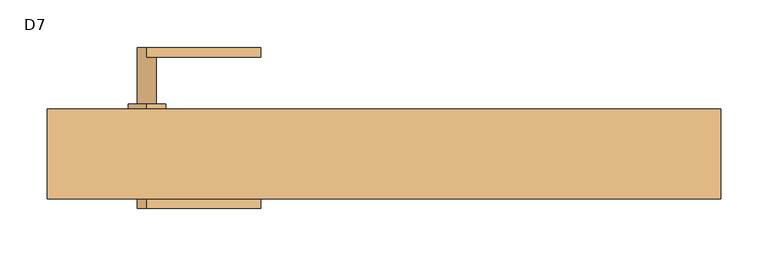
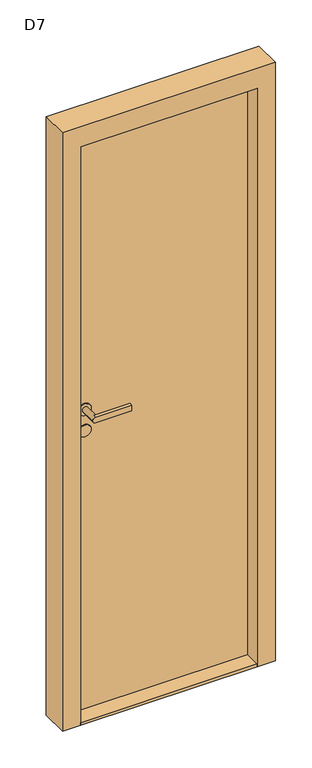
"""IFC4 building model written with IfcOpenShell, lengths in millimetres: door geometry, Enkeldörr : D7."""

from ifc_helpers import new_model, si_unit, point, frame, frame_2d, origin, origin_with_axes, place, context, project, spatial, polyline, circle_curve, trimmed, segment, composite_curve, outline, extrude, source, transform, mapped, element, save
from ifc_brep_helpers import plane_surface, cylinder_surface, advanced_brep


def d7_8e38d2bf(model_context):
    return source(origin(), model_context, "Body", "SolidModel", [
        extrude(outline(polyline([(295.0, 7.5), (-295.0, 7.5), (-295.0, 47.5), (295.0, 47.5), (295.0, 7.5)])), frame((0.0, 0.0, 10.0), z_axis=(0.0, 0.0, 1.0), x_axis=(1.0, 0.0, 0.0)), (0.0, 0.0, 1.0), 2030.0),
        advanced_brep(
        [(-250.0, -47.5, 1057.5), (-240.0, -47.5, 1067.5), (-250.0, -47.5, 1077.5), (-130.0, -47.5, 1077.5), (-130.0, -47.5, 1057.5), (-250.0, -57.5, 1077.5), (-260.0, -57.5, 1067.5), (-250.0, -57.5, 1057.5), (-130.0, -57.5, 1057.5), (-130.0, -57.5, 1077.5), (-240.0, 2.5, 1067.5), (-260.0, 2.5, 1067.5)],
        [
            (0, 1, circle_curve(frame((-250.0, -47.5, 1067.5), z_axis=(0.0, -1.0, 0.0), x_axis=(0.0, 0.0, 1.0)), 10.0)),
            (1, 2, circle_curve(frame((-250.0, -47.5, 1067.5), z_axis=(0.0, -1.0, 0.0), x_axis=(0.0, 0.0, 1.0)), 10.0)),
            (2, 3),
            (3, 4),
            (4, 0),
            (5, 6, circle_curve(frame((-250.0, -57.5, 1067.5), z_axis=(0.0, -1.0, 0.0), x_axis=(0.0, 0.0, 1.0)), 10.0)),
            (6, 7, circle_curve(frame((-250.0, -57.5, 1067.5), z_axis=(0.0, -1.0, 0.0), x_axis=(0.0, 0.0, 1.0)), 10.0)),
            (7, 8),
            (8, 9),
            (9, 5),
            (4, 8),
            (7, 0),
            (3, 9),
            (2, 5),
            (10, 11, circle_curve(frame((-250.0, 2.5, 1067.5), z_axis=(0.0, 1.0, 0.0), x_axis=(0.0, 0.0, 1.0)), 10.0)),
            (11, 10, circle_curve(frame((-250.0, 2.5, 1067.5), z_axis=(0.0, 1.0, 0.0), x_axis=(0.0, 0.0, 1.0)), 10.0)),
            (11, 6),
            (1, 10),
        ],
        [
            plane_surface(frame((-250.0, -47.5, 1057.5), z_axis=(0.0, 1.0, 0.0), x_axis=(1.0, 0.0, 0.0))),
            plane_surface(frame((-250.0, -57.5, 1057.5), z_axis=(0.0, -1.0, 0.0), x_axis=(-1.0, 0.0, 0.0))),
            plane_surface(frame((-250.0, -47.5, 1057.5), z_axis=(0.0, 0.0, -1.0), x_axis=(0.0, -1.0, 0.0))),
            plane_surface(frame((-130.0, -47.5, 1057.5), z_axis=(1.0, 0.0, 0.0), x_axis=(0.0, -1.0, 0.0))),
            plane_surface(frame((-130.0, -47.5, 1077.5), z_axis=(0.0, 0.0, 1.0), x_axis=(0.0, -1.0, 0.0))),
            plane_surface(frame((-250.0, 2.5, 1077.5), z_axis=(0.0, 1.0, 0.0), x_axis=(-1.0, 0.0, 0.0))),
            cylinder_surface(frame((-250.0, -57.5, 1067.5), z_axis=(0.0, 1.0, 0.0), x_axis=(0.0, 0.0, 1.0)), 10.0),
        ],
        [
            (0, [[1, 2, 3, 4, 5]]),
            (1, [[6, 7, 8, 9, 10]]),
            (2, [[11, -8, 12, -5]]),
            (3, [[13, -9, -11, -4]]),
            (4, [[14, -10, -13, -3]]),
            (5, [[15, 16]]),
            (6, [[17, -6, -14, -2, 18, -16]]),
            (6, [[-18, -1, -12, -7, -17, -15]]),
        ],
    ),
        advanced_brep(
        [(-250.0, 112.5, 1057.5), (-260.0, 112.5, 1067.5), (-250.0, 112.5, 1077.5), (-130.0, 112.5, 1077.5), (-130.0, 112.5, 1057.5), (-250.0, 102.5, 1077.5), (-240.0, 102.5, 1067.5), (-250.0, 102.5, 1057.5), (-130.0, 102.5, 1057.5), (-130.0, 102.5, 1077.5), (-260.0, 52.5, 1067.5), (-240.0, 52.5, 1067.5)],
        [
            (0, 1, circle_curve(frame((-250.0, 112.5, 1067.5), z_axis=(0.0, 1.0, 0.0), x_axis=(1.0, 0.0, 0.0)), 10.0)),
            (1, 2, circle_curve(frame((-250.0, 112.5, 1067.5), z_axis=(0.0, 1.0, 0.0), x_axis=(1.0, 0.0, 0.0)), 10.0)),
            (2, 3),
            (3, 4),
            (4, 0),
            (5, 6, circle_curve(frame((-250.0, 102.5, 1067.5), z_axis=(0.0, 1.0, 0.0), x_axis=(1.0, 0.0, 0.0)), 10.0)),
            (6, 7, circle_curve(frame((-250.0, 102.5, 1067.5), z_axis=(0.0, 1.0, 0.0), x_axis=(1.0, 0.0, 0.0)), 10.0)),
            (7, 8),
            (8, 9),
            (9, 5),
            (4, 8),
            (7, 0),
            (3, 9),
            (2, 5),
            (10, 11, circle_curve(frame((-250.0, 52.5, 1067.5), z_axis=(0.0, -1.0, 0.0), x_axis=(1.0, 0.0, 0.0)), 10.0)),
            (11, 10, circle_curve(frame((-250.0, 52.5, 1067.5), z_axis=(0.0, -1.0, 0.0), x_axis=(1.0, 0.0, 0.0)), 10.0)),
            (10, 1),
            (6, 11),
        ],
        [
            plane_surface(frame((-250.0, 112.5, 1057.5), z_axis=(0.0, 1.0, 0.0), x_axis=(1.0, 0.0, 0.0))),
            plane_surface(frame((-250.0, 102.5, 1057.5), z_axis=(0.0, -1.0, 0.0), x_axis=(-1.0, 0.0, 0.0))),
            plane_surface(frame((-250.0, 112.5, 1057.5), z_axis=(0.0, 0.0, -1.0), x_axis=(0.0, -1.0, 0.0))),
            plane_surface(frame((-130.0, 112.5, 1057.5), z_axis=(1.0, 0.0, 0.0), x_axis=(0.0, -1.0, 0.0))),
            plane_surface(frame((-130.0, 112.5, 1077.5), z_axis=(0.0, 0.0, 1.0), x_axis=(0.0, -1.0, 0.0))),
            plane_surface(frame((-240.0, 52.5, 1067.5), z_axis=(0.0, -1.0, 0.0), x_axis=(0.0, 0.0, -1.0))),
            cylinder_surface(frame((-250.0, 52.5, 1067.5), z_axis=(0.0, 1.0, 0.0), x_axis=(1.0, 0.0, 0.0)), 10.0),
        ],
        [
            (0, [[1, 2, 3, 4, 5]]),
            (1, [[6, 7, 8, 9, 10]]),
            (2, [[11, -8, 12, -5]]),
            (3, [[13, -9, -11, -4]]),
            (4, [[14, -10, -13, -3]]),
            (5, [[15, 16]]),
            (6, [[17, -1, -12, -7, 18, -15]]),
            (6, [[-18, -6, -14, -2, -17, -16]]),
        ],
    ),
        extrude(outline(composite_curve([segment(trimmed(circle_curve(frame_2d((1067.5, -250.0)), 20.0), [point((1047.5, -250.0))], [point((1087.5, -250.0))], False, "CARTESIAN"), True, "CONTINUOUS"), segment(trimmed(circle_curve(frame_2d((1067.5, -250.0)), 20.0), [point((1087.5, -250.0))], [point((1047.5, -250.0))], False, "CARTESIAN"), True, "CONTINUOUS")], self_intersect=False)), frame((0.0, 2.5, 0.0), z_axis=(0.0, 1.0, 0.0), x_axis=(0.0, 0.0, 1.0)), (0.0, 0.0, 1.0), 5.0),
        extrude(outline(composite_curve([segment(trimmed(circle_curve(frame_2d((992.5, -250.0)), 20.0), [point((972.5, -250.0))], [point((1012.5, -250.0))], False, "CARTESIAN"), True, "CONTINUOUS"), segment(trimmed(circle_curve(frame_2d((992.5, -250.0)), 20.0), [point((1012.5, -250.0))], [point((972.5, -250.0))], False, "CARTESIAN"), True, "CONTINUOUS")], self_intersect=False)), frame((0.0, 2.5, 0.0), z_axis=(0.0, 1.0, 0.0), x_axis=(0.0, 0.0, 1.0)), (0.0, 0.0, 1.0), 5.0),
        extrude(outline(composite_curve([segment(trimmed(circle_curve(frame_2d((1067.5, -250.0)), 20.0), [point((1047.5, -250.0))], [point((1087.5, -250.0))], False, "CARTESIAN"), True, "CONTINUOUS"), segment(trimmed(circle_curve(frame_2d((1067.5, -250.0)), 20.0), [point((1087.5, -250.0))], [point((1047.5, -250.0))], False, "CARTESIAN"), True, "CONTINUOUS")], self_intersect=False)), frame((0.0, 47.5, 0.0), z_axis=(0.0, 1.0, 0.0), x_axis=(0.0, 0.0, 1.0)), (0.0, 0.0, 1.0), 5.0),
        extrude(outline(composite_curve([segment(trimmed(circle_curve(frame_2d((992.5, -250.0)), 20.0), [point((972.5, -250.0))], [point((1012.5, -250.0))], False, "CARTESIAN"), True, "CONTINUOUS"), segment(trimmed(circle_curve(frame_2d((992.5, -250.0)), 20.0), [point((1012.5, -250.0))], [point((972.5, -250.0))], False, "CARTESIAN"), True, "CONTINUOUS")], self_intersect=False)), frame((0.0, 47.5, 0.0), z_axis=(0.0, 1.0, 0.0), x_axis=(0.0, 0.0, 1.0)), (0.0, 0.0, 1.0), 5.0),
        extrude(outline(polyline([(2110.0, 355.0), (2110.0, -355.0), (0.0, -355.0), (0.0, -295.0), (2040.0, -295.0), (2040.0, 295.0), (0.0, 295.0), (0.0, 355.0), (2110.0, 355.0)])), frame((0.0, -47.5, 0.0), z_axis=(0.0, 1.0, 0.0), x_axis=(0.0, 0.0, 1.0)), (0.0, 0.0, 1.0), 95.0),
        extrude(outline(polyline([(-295.0, -47.5), (-295.0, 47.5), (295.0, 47.5), (295.0, -47.5), (-295.0, -47.5)])), origin_with_axes(), (0.0, 0.0, 1.0), 10.0),
    ])


if __name__ == "__main__":
    model = new_model("IFC4")
    model_context = context("Model", 3, world=origin())
    ifc_project = project(units=[si_unit("LENGTHUNIT", "METRE", prefix="MILLI")], contexts=[model_context])
    site = spatial("IfcSite", under=ifc_project)
    building = spatial("IfcBuilding", under=site)
    placement = place(None, origin())
    d7_shape = d7_8e38d2bf(model_context)
    element("IfcDoor", 1, ObjectType="Enkeldörr : D7", at=placement, inside=building, context=model_context, shape_type="MappedRepresentation", body=[
        mapped(d7_shape, transform((0.0, 0.0, 0.0), x_axis=(1.0, 0.0, 0.0), y_axis=(0.0, 1.0, 0.0), z_axis=(0.0, 0.0, 1.0))),
    ])
    save(model, "model.ifc")
